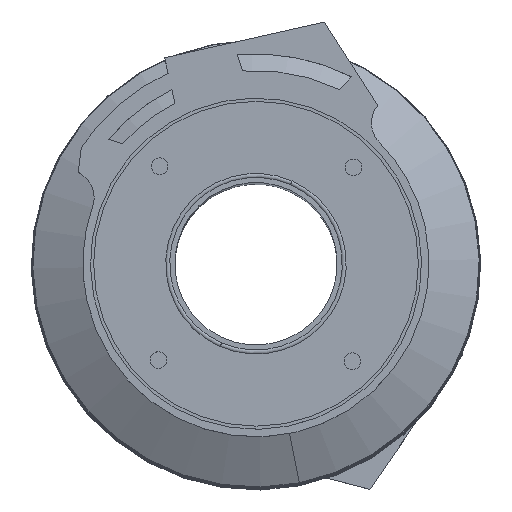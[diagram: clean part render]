
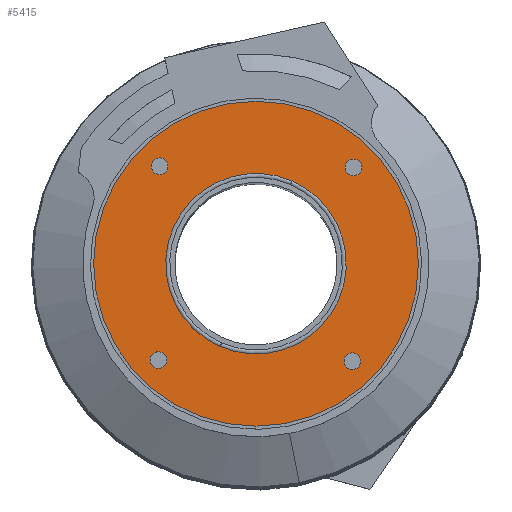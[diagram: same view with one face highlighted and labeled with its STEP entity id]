
A CAD part, top view. The second image highlights one B-rep face of the part: STEP entity #5415.
In plain terms, the highlighted planar face has unit normal (0, 0, 1).
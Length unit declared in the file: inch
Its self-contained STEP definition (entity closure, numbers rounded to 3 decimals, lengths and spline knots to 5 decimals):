
#19 = CARTESIAN_POINT ( 'NONE',  ( 1.25886, -1.12846, 11.81132 ) ) ;
#21 = DIRECTION ( 'NONE',  ( -1., 0., 0. ) ) ;
#87 = DIRECTION ( 'NONE',  ( 0., 0., -1. ) ) ;
#147 = CARTESIAN_POINT ( 'NONE',  ( -1.2005, -1.18594, 11.81132 ) ) ;
#161 = CARTESIAN_POINT ( 'NONE',  ( 0.44378, 1.01906, 11.81132 ) ) ;
#175 = EDGE_CURVE ( 'NONE', #728, #362, #4266, .T. ) ;
#232 = DIRECTION ( 'NONE',  ( -1., 0., 0. ) ) ;
#339 = EDGE_CURVE ( 'NONE', #5567, #5476, #3659, .T. ) ;
#362 = VERTEX_POINT ( 'NONE', #2692 ) ;
#390 = AXIS2_PLACEMENT_3D ( 'NONE', #1329, #1811, #6795 ) ;
#470 = ORIENTED_EDGE ( 'NONE', *, *, #497, .T. ) ;
#497 = EDGE_CURVE ( 'NONE', #6307, #644, #2319, .T. ) ;
#503 = CARTESIAN_POINT ( 'NONE',  ( 1.18594, -1.2005, 11.81132 ) ) ;
#545 = CARTESIAN_POINT ( 'NONE',  ( -1.25886, 1.12846, 11.81132 ) ) ;
#546 = AXIS2_PLACEMENT_3D ( 'NONE', #147, #3928, #6005 ) ;
#644 = VERTEX_POINT ( 'NONE', #5730 ) ;
#664 = CARTESIAN_POINT ( 'NONE',  ( 1.2005, 1.18594, 11.81132 ) ) ;
#672 = AXIS2_PLACEMENT_3D ( 'NONE', #3325, #3159, #21 ) ;
#728 = VERTEX_POINT ( 'NONE', #6667 ) ;
#825 = AXIS2_PLACEMENT_3D ( 'NONE', #4421, #1168, #4943 ) ;
#834 = EDGE_CURVE ( 'NONE', #644, #6307, #2174, .T. ) ;
#991 = EDGE_LOOP ( 'NONE', ( #2708, #4475 ) ) ;
#1066 = DIRECTION ( 'NONE',  ( 0.711, 0.703, 0. ) ) ;
#1090 = CARTESIAN_POINT ( 'NONE',  ( 0., 0., 11.81132 ) ) ;
#1125 = AXIS2_PLACEMENT_3D ( 'NONE', #503, #4973, #1066 ) ;
#1168 = DIRECTION ( 'NONE',  ( 0., 0., -1. ) ) ;
#1208 = CARTESIAN_POINT ( 'NONE',  ( -1.27342, -1.25798, 11.81132 ) ) ;
#1215 = DIRECTION ( 'NONE',  ( 0.711, 0.703, 0. ) ) ;
#1308 = ORIENTED_EDGE ( 'NONE', *, *, #175, .T. ) ;
#1309 = CARTESIAN_POINT ( 'NONE',  ( -0.44378, -1.01906, 11.81132 ) ) ;
#1326 = CARTESIAN_POINT ( 'NONE',  ( -1.2005, -1.18594, 11.81132 ) ) ;
#1329 = CARTESIAN_POINT ( 'NONE',  ( 0., 0., 11.81132 ) ) ;
#1383 = CIRCLE ( 'NONE', #3264, 0.1025 ) ;
#1450 = CARTESIAN_POINT ( 'NONE',  ( 1.11303, -1.27253, 11.81132 ) ) ;
#1453 = VERTEX_POINT ( 'NONE', #545 ) ;
#1473 = EDGE_CURVE ( 'NONE', #1453, #5902, #3904, .T. ) ;
#1687 = AXIS2_PLACEMENT_3D ( 'NONE', #5881, #2647, #6402 ) ;
#1811 = DIRECTION ( 'NONE',  ( 0., 0., 1. ) ) ;
#1910 = EDGE_LOOP ( 'NONE', ( #2394, #4005 ) ) ;
#1916 = DIRECTION ( 'NONE',  ( 0., 0., -1. ) ) ;
#2145 = AXIS2_PLACEMENT_3D ( 'NONE', #1090, #4002, #6458 ) ;
#2174 = CIRCLE ( 'NONE', #2480, 0.1025 ) ;
#2241 = AXIS2_PLACEMENT_3D ( 'NONE', #4387, #87, #3856 ) ;
#2253 = VERTEX_POINT ( 'NONE', #1450 ) ;
#2319 = CIRCLE ( 'NONE', #546, 0.1025 ) ;
#2394 = ORIENTED_EDGE ( 'NONE', *, *, #4770, .T. ) ;
#2480 = AXIS2_PLACEMENT_3D ( 'NONE', #1326, #1916, #3345 ) ;
#2574 = EDGE_CURVE ( 'NONE', #362, #728, #4118, .T. ) ;
#2647 = DIRECTION ( 'NONE',  ( 0., 0., -1. ) ) ;
#2692 = CARTESIAN_POINT ( 'NONE',  ( 2., 0., 11.81132 ) ) ;
#2708 = ORIENTED_EDGE ( 'NONE', *, *, #339, .T. ) ;
#2741 = FACE_BOUND ( 'NONE', #6622, .T. ) ;
#2905 = EDGE_CURVE ( 'NONE', #4210, #2253, #4267, .T. ) ;
#2924 = FACE_BOUND ( 'NONE', #3672, .T. ) ;
#3113 = ORIENTED_EDGE ( 'NONE', *, *, #834, .T. ) ;
#3158 = CARTESIAN_POINT ( 'NONE',  ( -1.18594, 1.2005, 11.81132 ) ) ;
#3159 = DIRECTION ( 'NONE',  ( 0., 0., 1. ) ) ;
#3161 = VERTEX_POINT ( 'NONE', #6085 ) ;
#3264 = AXIS2_PLACEMENT_3D ( 'NONE', #5446, #4632, #6503 ) ;
#3291 = PLANE ( 'NONE',  #2241 ) ;
#3325 = CARTESIAN_POINT ( 'NONE',  ( 0., 0., 11.81132 ) ) ;
#3345 = DIRECTION ( 'NONE',  ( 0.711, 0.703, 0. ) ) ;
#3406 = AXIS2_PLACEMENT_3D ( 'NONE', #664, #4464, #1215 ) ;
#3421 = ORIENTED_EDGE ( 'NONE', *, *, #5740, .T. ) ;
#3459 = DIRECTION ( 'NONE',  ( 0., 0., -1. ) ) ;
#3467 = EDGE_CURVE ( 'NONE', #4235, #3161, #1383, .T. ) ;
#3620 = CIRCLE ( 'NONE', #825, 0.1025 ) ;
#3659 = CIRCLE ( 'NONE', #2145, 1.11149 ) ;
#3672 = EDGE_LOOP ( 'NONE', ( #3701, #4601 ) ) ;
#3701 = ORIENTED_EDGE ( 'NONE', *, *, #2905, .T. ) ;
#3725 = DIRECTION ( 'NONE',  ( 0.711, 0.703, 0. ) ) ;
#3856 = DIRECTION ( 'NONE',  ( 0.194, -0.981, 0. ) ) ;
#3904 = CIRCLE ( 'NONE', #4111, 0.1025 ) ;
#3923 = ORIENTED_EDGE ( 'NONE', *, *, #3467, .T. ) ;
#3928 = DIRECTION ( 'NONE',  ( 0., 0., -1. ) ) ;
#4002 = DIRECTION ( 'NONE',  ( 0., 0., -1. ) ) ;
#4005 = ORIENTED_EDGE ( 'NONE', *, *, #1473, .T. ) ;
#4006 = FACE_BOUND ( 'NONE', #991, .T. ) ;
#4034 = CARTESIAN_POINT ( 'NONE',  ( -1.11303, 1.27253, 11.81132 ) ) ;
#4111 = AXIS2_PLACEMENT_3D ( 'NONE', #3158, #6980, #3725 ) ;
#4118 = CIRCLE ( 'NONE', #672, 2. ) ;
#4172 = FACE_BOUND ( 'NONE', #4965, .T. ) ;
#4210 = VERTEX_POINT ( 'NONE', #19 ) ;
#4235 = VERTEX_POINT ( 'NONE', #5408 ) ;
#4266 = CIRCLE ( 'NONE', #390, 2. ) ;
#4267 = CIRCLE ( 'NONE', #1125, 0.1025 ) ;
#4387 = CARTESIAN_POINT ( 'NONE',  ( -2.00007, -0.39536, 11.81132 ) ) ;
#4421 = CARTESIAN_POINT ( 'NONE',  ( -1.18594, 1.2005, 11.81132 ) ) ;
#4464 = DIRECTION ( 'NONE',  ( 0., 0., -1. ) ) ;
#4475 = ORIENTED_EDGE ( 'NONE', *, *, #5864, .T. ) ;
#4601 = ORIENTED_EDGE ( 'NONE', *, *, #4604, .T. ) ;
#4604 = EDGE_CURVE ( 'NONE', #2253, #4210, #6391, .T. ) ;
#4632 = DIRECTION ( 'NONE',  ( 0., 0., -1. ) ) ;
#4770 = EDGE_CURVE ( 'NONE', #5902, #1453, #3620, .T. ) ;
#4943 = DIRECTION ( 'NONE',  ( 0.711, 0.703, 0. ) ) ;
#4965 = EDGE_LOOP ( 'NONE', ( #3113, #470 ) ) ;
#4973 = DIRECTION ( 'NONE',  ( 0., 0., -1. ) ) ;
#5386 = EDGE_LOOP ( 'NONE', ( #1308, #6629 ) ) ;
#5408 = CARTESIAN_POINT ( 'NONE',  ( 1.27342, 1.25798, 11.81132 ) ) ;
#5415 = ADVANCED_FACE ( 'NONE', ( #4172, #2924, #2741, #5621, #5433, #4006 ), #3291, .F. ) ;
#5420 = CIRCLE ( 'NONE', #5951, 1.11149 ) ;
#5433 = FACE_OUTER_BOUND ( 'NONE', #5386, .T. ) ;
#5446 = CARTESIAN_POINT ( 'NONE',  ( 1.2005, 1.18594, 11.81132 ) ) ;
#5476 = VERTEX_POINT ( 'NONE', #161 ) ;
#5567 = VERTEX_POINT ( 'NONE', #1309 ) ;
#5621 = FACE_BOUND ( 'NONE', #1910, .T. ) ;
#5730 = CARTESIAN_POINT ( 'NONE',  ( -1.12758, -1.11391, 11.81132 ) ) ;
#5740 = EDGE_CURVE ( 'NONE', #3161, #4235, #5934, .T. ) ;
#5864 = EDGE_CURVE ( 'NONE', #5476, #5567, #5420, .T. ) ;
#5881 = CARTESIAN_POINT ( 'NONE',  ( 1.18594, -1.2005, 11.81132 ) ) ;
#5902 = VERTEX_POINT ( 'NONE', #4034 ) ;
#5934 = CIRCLE ( 'NONE', #3406, 0.1025 ) ;
#5951 = AXIS2_PLACEMENT_3D ( 'NONE', #6706, #3459, #232 ) ;
#6005 = DIRECTION ( 'NONE',  ( 0.711, 0.703, 0. ) ) ;
#6085 = CARTESIAN_POINT ( 'NONE',  ( 1.12758, 1.11391, 11.81132 ) ) ;
#6307 = VERTEX_POINT ( 'NONE', #1208 ) ;
#6391 = CIRCLE ( 'NONE', #1687, 0.1025 ) ;
#6402 = DIRECTION ( 'NONE',  ( 0.711, 0.703, 0. ) ) ;
#6458 = DIRECTION ( 'NONE',  ( -1., 0., 0. ) ) ;
#6503 = DIRECTION ( 'NONE',  ( 0.711, 0.703, 0. ) ) ;
#6622 = EDGE_LOOP ( 'NONE', ( #3923, #3421 ) ) ;
#6629 = ORIENTED_EDGE ( 'NONE', *, *, #2574, .T. ) ;
#6667 = CARTESIAN_POINT ( 'NONE',  ( -2., 0., 11.81132 ) ) ;
#6706 = CARTESIAN_POINT ( 'NONE',  ( 0., 0., 11.81132 ) ) ;
#6795 = DIRECTION ( 'NONE',  ( -1., 0., 0. ) ) ;
#6980 = DIRECTION ( 'NONE',  ( 0., 0., -1. ) ) ;
